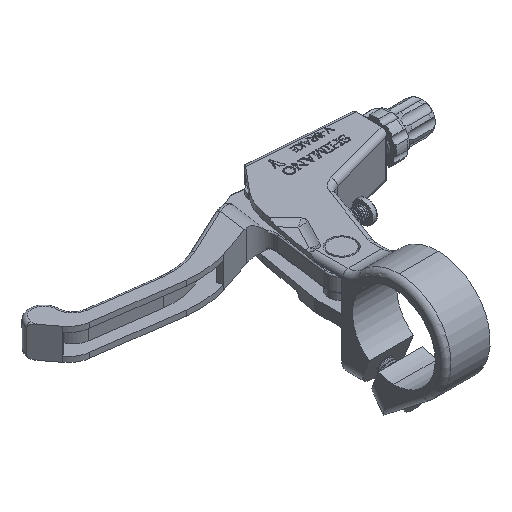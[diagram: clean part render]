
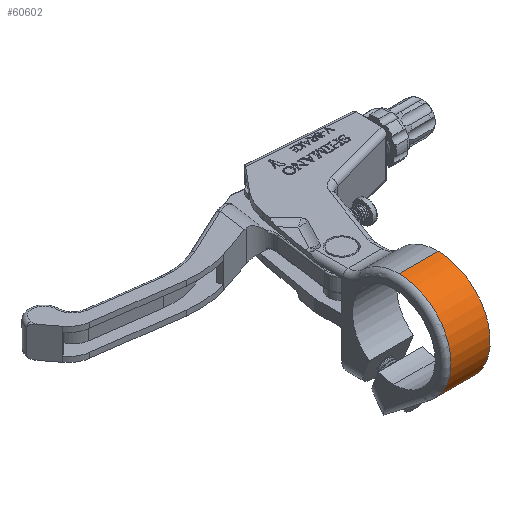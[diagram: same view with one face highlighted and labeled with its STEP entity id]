
A CAD part, isometric view. The second image highlights one B-rep face of the part: STEP entity #60602.
In plain terms, the highlighted cylindrical face has radius 20 mm (diameter 40 mm), a partial arc.
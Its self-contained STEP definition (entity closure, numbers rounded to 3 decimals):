
#890 = ORIENTED_EDGE ( 'NONE', *, *, #3591, .F. ) ;
#3591 = EDGE_CURVE ( 'NONE', #40588, #46894, #53279, .T. ) ;
#5092 = DIRECTION ( 'NONE',  ( 0., -1., 0. ) ) ;
#10497 = EDGE_CURVE ( 'NONE', #56593, #46894, #51644, .T. ) ;
#11231 = AXIS2_PLACEMENT_3D ( 'NONE', #66937, #36024, #5092 ) ;
#11548 = LINE ( 'NONE', #29101, #39002 ) ;
#11861 = DIRECTION ( 'NONE',  ( -1., 0., 0. ) ) ;
#12069 = VECTOR ( 'NONE', #39954, 1000. ) ;
#14153 = ORIENTED_EDGE ( 'NONE', *, *, #27831, .T. ) ;
#15865 = CIRCLE ( 'NONE', #11231, 20. ) ;
#19314 = DIRECTION ( 'NONE',  ( 0., 0., -1. ) ) ;
#19393 = DIRECTION ( 'NONE',  ( 1., 0., 0. ) ) ;
#19527 = CARTESIAN_POINT ( 'NONE',  ( 2., -20., -3.5 ) ) ;
#23260 = FACE_OUTER_BOUND ( 'NONE', #29179, .T. ) ;
#24435 = EDGE_CURVE ( 'NONE', #32909, #56593, #11548, .T. ) ;
#27831 = EDGE_CURVE ( 'NONE', #40588, #32909, #15865, .T. ) ;
#28470 = ORIENTED_EDGE ( 'NONE', *, *, #24435, .T. ) ;
#29101 = CARTESIAN_POINT ( 'NONE',  ( 81.676, -20., 16.5 ) ) ;
#29179 = EDGE_LOOP ( 'NONE', ( #14153, #28470, #41019, #890 ) ) ;
#32588 = CARTESIAN_POINT ( 'NONE',  ( 2., -32.323, -19.252 ) ) ;
#32909 = VERTEX_POINT ( 'NONE', #42920 ) ;
#36024 = DIRECTION ( 'NONE',  ( -1., 0., 0. ) ) ;
#39002 = VECTOR ( 'NONE', #65175, 1000. ) ;
#39954 = DIRECTION ( 'NONE',  ( -1., 0., 0. ) ) ;
#40307 = CARTESIAN_POINT ( 'NONE',  ( 81.676, -32.323, -19.252 ) ) ;
#40588 = VERTEX_POINT ( 'NONE', #41476 ) ;
#41019 = ORIENTED_EDGE ( 'NONE', *, *, #10497, .T. ) ;
#41476 = CARTESIAN_POINT ( 'NONE',  ( 17., -32.323, -19.252 ) ) ;
#42750 = CARTESIAN_POINT ( 'NONE',  ( 81.676, -20., -3.5 ) ) ;
#42815 = AXIS2_PLACEMENT_3D ( 'NONE', #42750, #11861, #47992 ) ;
#42920 = CARTESIAN_POINT ( 'NONE',  ( 17., -20., 16.5 ) ) ;
#46894 = VERTEX_POINT ( 'NONE', #32588 ) ;
#47992 = DIRECTION ( 'NONE',  ( 0., 0., 1. ) ) ;
#51644 = CIRCLE ( 'NONE', #66569, 20. ) ;
#53279 = LINE ( 'NONE', #40307, #12069 ) ;
#54229 = CARTESIAN_POINT ( 'NONE',  ( 2., -20., 16.5 ) ) ;
#56593 = VERTEX_POINT ( 'NONE', #54229 ) ;
#60602 = ADVANCED_FACE ( 'NONE', ( #23260 ), #62773, .T. ) ;
#62773 = CYLINDRICAL_SURFACE ( 'NONE', #42815, 20. ) ;
#65175 = DIRECTION ( 'NONE',  ( -1., 0., 0. ) ) ;
#66569 = AXIS2_PLACEMENT_3D ( 'NONE', #19527, #19393, #19314 ) ;
#66937 = CARTESIAN_POINT ( 'NONE',  ( 17., -20., -3.5 ) ) ;
